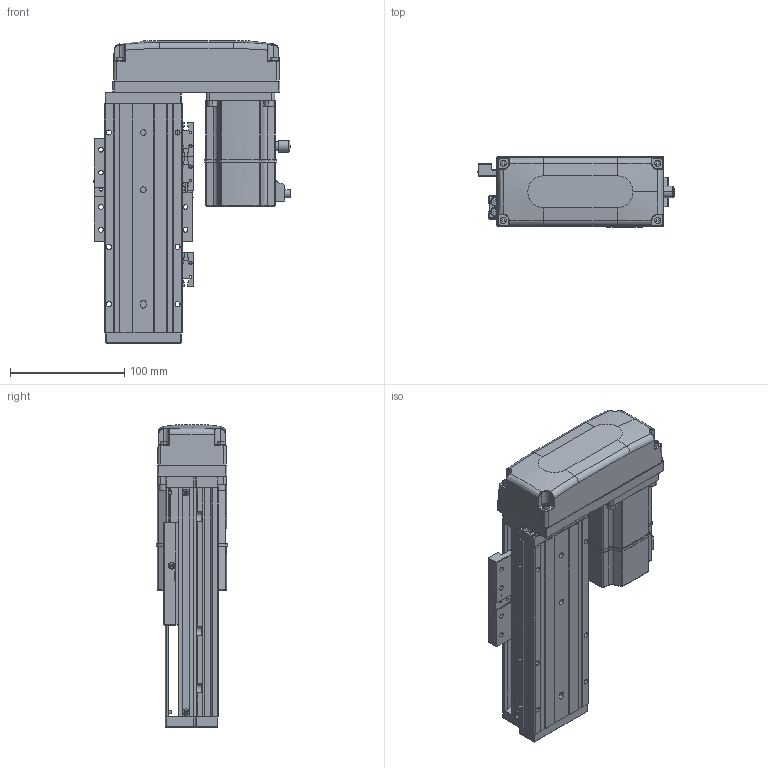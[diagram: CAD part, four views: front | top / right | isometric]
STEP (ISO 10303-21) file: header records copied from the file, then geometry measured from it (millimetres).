
FILE_DESCRIPTION (( 'STEP AP203' ), '1' );
FILE_NAME ('KTHAL60-50-BL-M20-C4L.step', '2022-12-16T02:06:36', ( '微软用户' ), ( '微软中国' ), 'SwSTEP 2.0', 'SolidWorks 2020', '' );
FILE_SCHEMA (( 'CONFIG_CONTROL_DESIGN' ));
Length unit declared in the file: millimetre
Products named in the file (17): CTHA60-015-4_CTHA60-015-4; KTHLA60-002; CTHA60-021; GTH80-026; KTHA60-004; GBT 70.1-M4×16; KTHAL60-50-BL-M20-C4L; KTHA60-005; GBT77-2000M3-3; GB¨uT 70.2-M3¡Á5_M3¡Á6; GBT 70.1-M3℅6; GBT 70.3-M3℅6; CTHA60-016; EE_SX911P_R; _X2_4E0983F1_X0_200W_1; KTHA60-001_200; CTHA60-017
Assembly tree (45 placements, depth 2):
  KTHAL60-50-BL-M20-C4L
    KTHA60-001_200
    KTHLA60-002
    KTHA60-004
    KTHA60-005
    GB¨uT 70.2-M3¡Á5_M3¡Á6  x5
    GBT 70.3-M3℅6  x4
    EE_SX911P_R  x3
    CTHA60-017  x3
    CTHA60-021  x2
    GBT 70.1-M4×16  x8
    GBT77-2000M3-3  x6
    GBT 70.1-M3℅6  x6
    CTHA60-016
    _X2_4E0983F1_X0_200W_1
    CTHA60-015-4_CTHA60-015-4
    GTH80-026
Bounding box: 172.2 x 62.42 x 264 mm (x, y, z)
Volume: 1186006 mm3; surface area: 228184.8 mm2
Topology: 48 solids, 48 shells, 2271 faces, 5380 edges, 3301 vertices
Faces by surface type: plane 1211, cylinder 599, cone 262, bspline 103, torus 82, sphere 14
Entity records: 43309 total; most frequent: CARTESIAN_POINT 9818, DIRECTION 6481, ORIENTED_EDGE 6384, EDGE_CURVE 3192, AXIS2_PLACEMENT_3D 2248, VECTOR 1985, VERTEX_POINT 1985, LINE 1985
